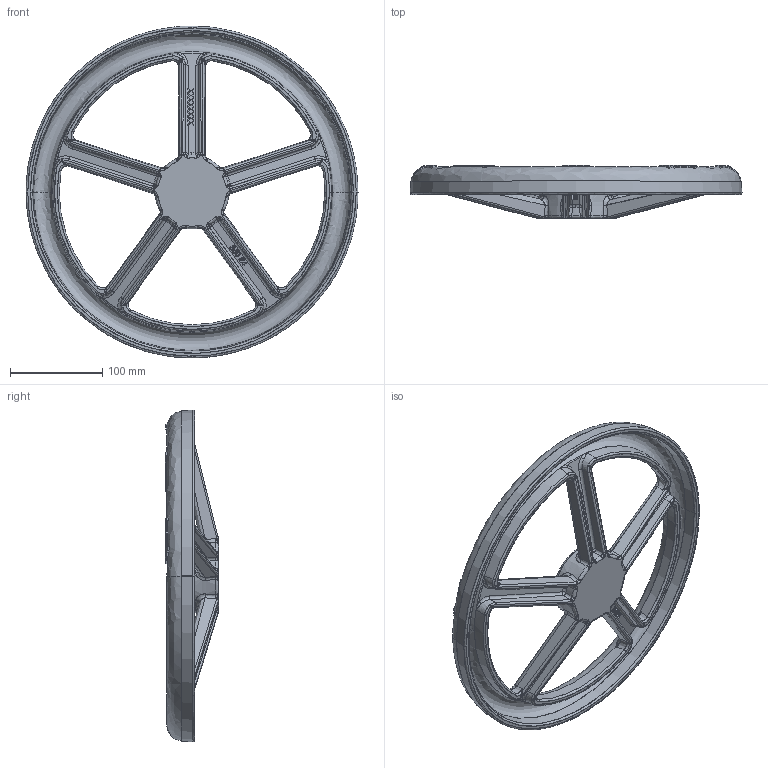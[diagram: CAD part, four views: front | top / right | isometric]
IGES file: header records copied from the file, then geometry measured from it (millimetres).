
Start section: SolidWorks IGES file using analytic representation for surfaces
Global section: file name: C:\work-andy\PCF360\S08\0820001000.IGS; native system: SolidWorks 2008; preprocessor: SolidWorks 2008; author: ch_anji; date: 091127.144632; units: millimetre
Bounding box: 359.62 x 57.5 x 359.62 mm (x, y, z)
Surface area: 221931.4 mm2 (no closed solid volume)
Topology: 0 solids, 0 shells, 820 faces, 11094 edges, 11083 vertices
Faces by surface type: bspline 687, revolution 133
